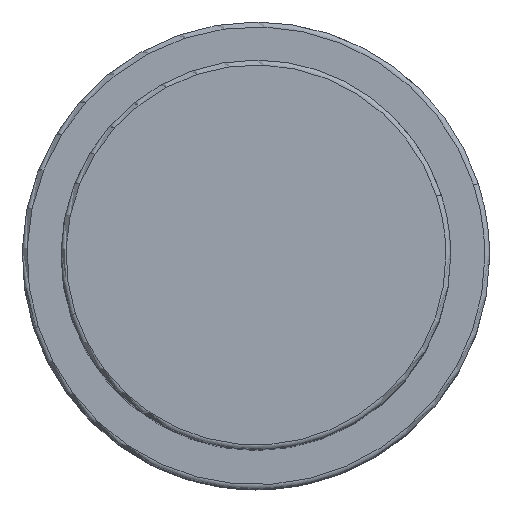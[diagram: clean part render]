
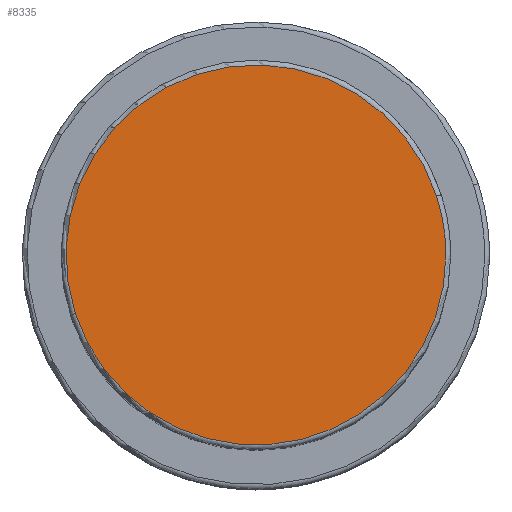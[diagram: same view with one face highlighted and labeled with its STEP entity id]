
A CAD part, top view. The second image highlights one B-rep face of the part: STEP entity #8335.
In plain terms, the highlighted planar face has unit normal (0, 0, 1).
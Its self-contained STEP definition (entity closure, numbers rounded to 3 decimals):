
#8268=CARTESIAN_POINT('',(18.546,6.026,63.5));
#8269=VERTEX_POINT('',#8268);
#8287=CARTESIAN_POINT('',(-18.546,-6.026,63.5));
#8288=VERTEX_POINT('',#8287);
#8296=CARTESIAN_POINT('',(0.0,0.0,63.5));
#8297=DIRECTION('',(0.0,0.0,1.0));
#8298=DIRECTION('',(1.0,0.0,0.0));
#8299=AXIS2_PLACEMENT_3D('',#8296,#8297,#8298);
#8300=CIRCLE('',#8299,19.5);
#8301=EDGE_CURVE('no 4163',#8269,#8288,#8300,.T.);
#8311=CARTESIAN_POINT('',(19.5,0.0,63.5));
#8312=VERTEX_POINT('',#8311);
#8313=CARTESIAN_POINT('',(0.0,0.0,63.5));
#8314=DIRECTION('',(0.0,0.0,1.0));
#8315=DIRECTION('',(1.0,0.0,0.0));
#8316=AXIS2_PLACEMENT_3D('',#8313,#8314,#8315);
#8317=CIRCLE('',#8316,19.5);
#8318=EDGE_CURVE('no 4172',#8312,#8269,#8317,.T.);
#8319=ORIENTED_EDGE('',*,*,#8318,.T.);
#8320=ORIENTED_EDGE('',*,*,#8301,.T.);
#8321=CARTESIAN_POINT('',(0.0,0.0,63.5));
#8322=DIRECTION('',(0.0,0.0,1.0));
#8323=DIRECTION('',(1.0,0.0,0.0));
#8324=AXIS2_PLACEMENT_3D('',#8321,#8322,#8323);
#8325=CIRCLE('',#8324,19.5);
#8326=EDGE_CURVE('no 4178',#8288,#8312,#8325,.T.);
#8327=ORIENTED_EDGE('',*,*,#8326,.T.);
#8328=EDGE_LOOP('',(#8319,#8320,#8327));
#8329=FACE_OUTER_BOUND('',#8328,.T.);
#8330=CARTESIAN_POINT('',(0.0,0.0,63.5));
#8331=DIRECTION('',(0.0,0.0,1.0));
#8332=DIRECTION('',(1.0,0.0,0.0));
#8333=AXIS2_PLACEMENT_3D('',#8330,#8331,#8332);
#8334=PLANE('',#8333);
#8335=ADVANCED_FACE('no 4165',(#8329),#8334,.T.);
